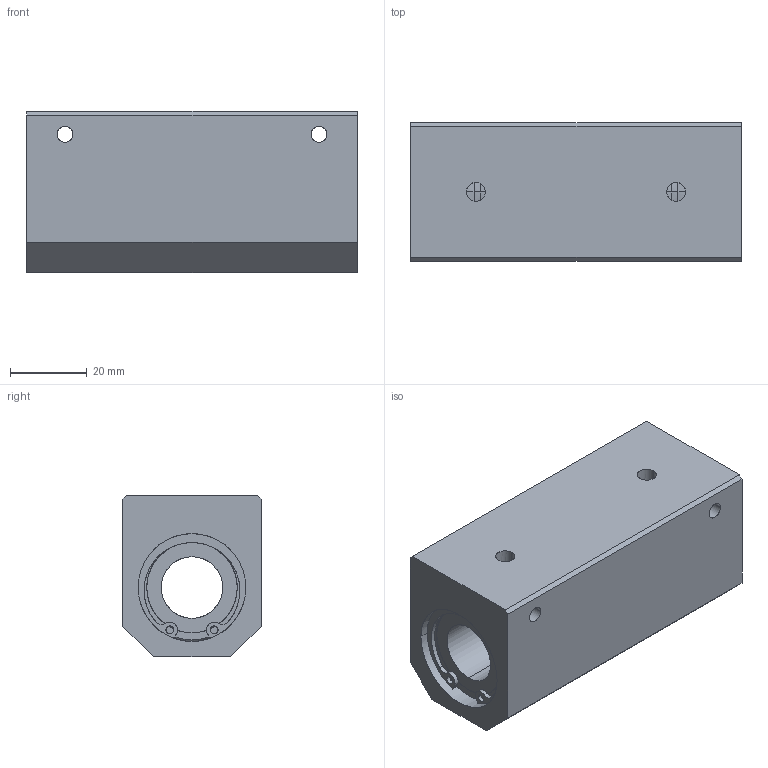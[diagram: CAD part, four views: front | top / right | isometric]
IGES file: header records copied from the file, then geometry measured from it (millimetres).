
Global section: file name: No Iges File Name specified; native system: AutoDesk Inventor R10; preprocessor: AutoDesk Inventor Iges Exporter R10; author: No Author specified; organization: No Organization specified; date: 20101216.152403; units: millimetre
Bounding box: 86 x 36 x 42 mm (x, y, z)
Surface area: 22137.3 mm2 (no closed solid volume)
Topology: 0 solids, 0 shells, 108 faces, 820 edges, 820 vertices
Faces by surface type: bspline 108
